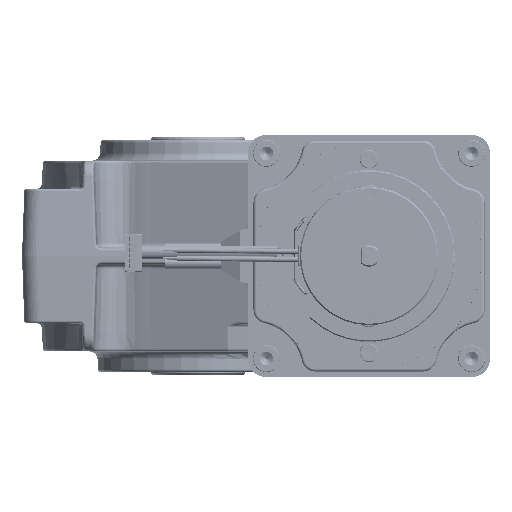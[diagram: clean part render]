
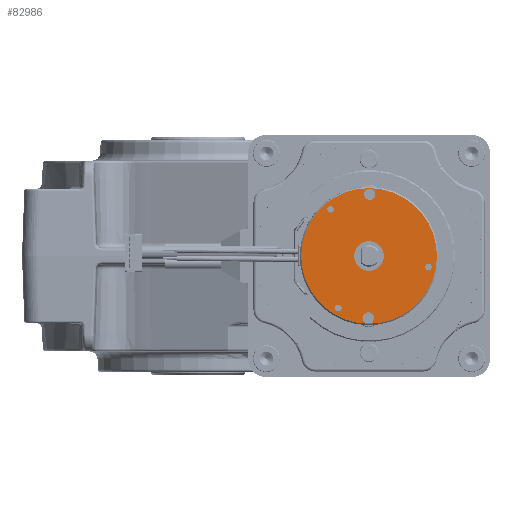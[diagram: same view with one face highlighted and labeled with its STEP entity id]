
A CAD part, left-side view. The second image highlights one B-rep face of the part: STEP entity #82986.
In plain terms, the highlighted planar face has unit normal (-1, 0, 0).
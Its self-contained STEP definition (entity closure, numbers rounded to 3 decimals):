
#1125 = AXIS2_PLACEMENT_3D ( 'NONE', #389057, #285704, #92017 ) ;
#7825 = AXIS2_PLACEMENT_3D ( 'NONE', #385766, #10157, #425029 ) ;
#8636 = CIRCLE ( 'NONE', #189085, 5.5 ) ;
#10157 = DIRECTION ( 'NONE',  ( 1., 0., 0. ) ) ;
#12057 = CARTESIAN_POINT ( 'NONE',  ( -331.459, -50.21, 33.282 ) ) ;
#12895 = CARTESIAN_POINT ( 'NONE',  ( -331.459, -16.029, 16.966 ) ) ;
#17750 = AXIS2_PLACEMENT_3D ( 'NONE', #117070, #414238, #193179 ) ;
#21925 = AXIS2_PLACEMENT_3D ( 'NONE', #27874, #175227, #401114 ) ;
#26523 = EDGE_CURVE ( 'NONE', #59712, #194516, #285252, .T. ) ;
#27874 = CARTESIAN_POINT ( 'NONE',  ( -331.459, -27.87, 14.403 ) ) ;
#42299 = DIRECTION ( 'NONE',  ( 0., -0.508, 0.861 ) ) ;
#44569 = ORIENTED_EDGE ( 'NONE', *, *, #374993, .T. ) ;
#45468 = EDGE_CURVE ( 'NONE', #362973, #291118, #56095, .T. ) ;
#49362 = DIRECTION ( 'NONE',  ( 0., -0.508, 0.861 ) ) ;
#49510 = EDGE_CURVE ( 'NONE', #291118, #362973, #452492, .T. ) ;
#51770 = DIRECTION ( 'NONE',  ( 1., 0., 0. ) ) ;
#56095 = CIRCLE ( 'NONE', #1125, 1.23 ) ;
#59712 = VERTEX_POINT ( 'NONE', #317748 ) ;
#82986 = ADVANCED_FACE ( 'NONE', ( #152763, #302496, #484417, #155154, #295218, #113451, #332121 ), #115894, .F. ) ;
#86222 = CARTESIAN_POINT ( 'NONE',  ( -331.459, -16.654, 18.025 ) ) ;
#86944 = VERTEX_POINT ( 'NONE', #277448 ) ;
#89856 = VERTEX_POINT ( 'NONE', #476757 ) ;
#91174 = AXIS2_PLACEMENT_3D ( 'NONE', #454734, #226334, #344177 ) ;
#92017 = DIRECTION ( 'NONE',  ( 0., -0.508, 0.861 ) ) ;
#94064 = AXIS2_PLACEMENT_3D ( 'NONE', #314850, #211604, #398255 ) ;
#103034 = CARTESIAN_POINT ( 'NONE',  ( -331.459, -28.091, 37.402 ) ) ;
#104779 = DIRECTION ( 'NONE',  ( 0., -0.508, 0.861 ) ) ;
#105380 = DIRECTION ( 'NONE',  ( -1., 0., 0. ) ) ;
#113149 = ORIENTED_EDGE ( 'NONE', *, *, #45468, .T. ) ;
#113451 = FACE_BOUND ( 'NONE', #348280, .T. ) ;
#115894 = PLANE ( 'NONE',  #164408 ) ;
#117070 = CARTESIAN_POINT ( 'NONE',  ( -331.459, -28.312, 60.401 ) ) ;
#122070 = EDGE_CURVE ( 'NONE', #453944, #362469, #219467, .T. ) ;
#122396 = AXIS2_PLACEMENT_3D ( 'NONE', #441140, #143950, #210355 ) ;
#122909 = AXIS2_PLACEMENT_3D ( 'NONE', #12057, #350845, #161827 ) ;
#125425 = CARTESIAN_POINT ( 'NONE',  ( -331.459, -28.091, 37.402 ) ) ;
#127788 = DIRECTION ( 'NONE',  ( 1., 0., 0. ) ) ;
#141306 = CIRCLE ( 'NONE', #94064, 1.23 ) ;
#143950 = DIRECTION ( 'NONE',  ( 1., 0., 0. ) ) ;
#149821 = ORIENTED_EDGE ( 'NONE', *, *, #392964, .T. ) ;
#149859 = EDGE_CURVE ( 'NONE', #362469, #453944, #141306, .T. ) ;
#150676 = ORIENTED_EDGE ( 'NONE', *, *, #415633, .T. ) ;
#151674 = CIRCLE ( 'NONE', #449689, 5.5 ) ;
#151983 = ORIENTED_EDGE ( 'NONE', *, *, #122070, .T. ) ;
#152763 = FACE_BOUND ( 'NONE', #395417, .T. ) ;
#154187 = EDGE_LOOP ( 'NONE', ( #207146, #469732 ) ) ;
#154590 = AXIS2_PLACEMENT_3D ( 'NONE', #328244, #478109, #104779 ) ;
#155154 = FACE_BOUND ( 'NONE', #193819, .T. ) ;
#155749 = CARTESIAN_POINT ( 'NONE',  ( -331.459, -29.379, 62.209 ) ) ;
#161827 = DIRECTION ( 'NONE',  ( 0., -0.508, 0.861 ) ) ;
#164408 = AXIS2_PLACEMENT_3D ( 'NONE', #482007, #300102, #42299 ) ;
#170070 = VERTEX_POINT ( 'NONE', #155749 ) ;
#174125 = AXIS2_PLACEMENT_3D ( 'NONE', #476802, #356471, #400591 ) ;
#175026 = CARTESIAN_POINT ( 'NONE',  ( -331.459, -40.925, 59.146 ) ) ;
#175227 = DIRECTION ( 'NONE',  ( 1., 0., 0. ) ) ;
#177441 = CARTESIAN_POINT ( 'NONE',  ( -331.459, -28.937, 16.211 ) ) ;
#189085 = AXIS2_PLACEMENT_3D ( 'NONE', #125425, #51770, #49362 ) ;
#191179 = EDGE_CURVE ( 'NONE', #86944, #245754, #401630, .T. ) ;
#193179 = DIRECTION ( 'NONE',  ( 0., -0.508, 0.861 ) ) ;
#193819 = EDGE_LOOP ( 'NONE', ( #261117, #113149 ) ) ;
#194516 = VERTEX_POINT ( 'NONE', #12895 ) ;
#196600 = CARTESIAN_POINT ( 'NONE',  ( -331.459, -27.244, 58.592 ) ) ;
#197348 = AXIS2_PLACEMENT_3D ( 'NONE', #103034, #105380, #402527 ) ;
#207146 = ORIENTED_EDGE ( 'NONE', *, *, #388188, .T. ) ;
#210355 = DIRECTION ( 'NONE',  ( 0., -0.508, 0.861 ) ) ;
#211604 = DIRECTION ( 'NONE',  ( 1., 0., 0. ) ) ;
#215518 = CARTESIAN_POINT ( 'NONE',  ( -331.459, -49.585, 32.223 ) ) ;
#215886 = EDGE_LOOP ( 'NONE', ( #151983, #246502 ) ) ;
#218326 = DIRECTION ( 'NONE',  ( 1., 0., 0. ) ) ;
#219467 = CIRCLE ( 'NONE', #7825, 1.23 ) ;
#226334 = DIRECTION ( 'NONE',  ( 1., 0., 0. ) ) ;
#238163 = VERTEX_POINT ( 'NONE', #196600 ) ;
#245754 = VERTEX_POINT ( 'NONE', #175026 ) ;
#246502 = ORIENTED_EDGE ( 'NONE', *, *, #149859, .T. ) ;
#252662 = DIRECTION ( 'NONE',  ( 0., -0.508, 0.861 ) ) ;
#261117 = ORIENTED_EDGE ( 'NONE', *, *, #49510, .T. ) ;
#273362 = EDGE_LOOP ( 'NONE', ( #328565, #481593 ) ) ;
#277448 = CARTESIAN_POINT ( 'NONE',  ( -331.459, -15.256, 15.657 ) ) ;
#284934 = AXIS2_PLACEMENT_3D ( 'NONE', #86222, #127788, #385701 ) ;
#285252 = CIRCLE ( 'NONE', #284934, 1.229 ) ;
#285704 = DIRECTION ( 'NONE',  ( 1., 0., 0. ) ) ;
#291118 = VERTEX_POINT ( 'NONE', #351469 ) ;
#295218 = FACE_BOUND ( 'NONE', #273362, .T. ) ;
#299911 = EDGE_LOOP ( 'NONE', ( #387271, #149821 ) ) ;
#300102 = DIRECTION ( 'NONE',  ( 1., 0., 0. ) ) ;
#302496 = FACE_BOUND ( 'NONE', #299911, .T. ) ;
#303577 = CIRCLE ( 'NONE', #154590, 1.229 ) ;
#310554 = CIRCLE ( 'NONE', #122396, 2.1 ) ;
#311748 = CIRCLE ( 'NONE', #21925, 2.1 ) ;
#313195 = CARTESIAN_POINT ( 'NONE',  ( -331.459, -14.419, 55.835 ) ) ;
#314850 = CARTESIAN_POINT ( 'NONE',  ( -331.459, -13.794, 54.776 ) ) ;
#317748 = CARTESIAN_POINT ( 'NONE',  ( -331.459, -17.279, 19.084 ) ) ;
#328244 = CARTESIAN_POINT ( 'NONE',  ( -331.459, -16.654, 18.025 ) ) ;
#328565 = ORIENTED_EDGE ( 'NONE', *, *, #26523, .T. ) ;
#332121 = FACE_OUTER_BOUND ( 'NONE', #154187, .T. ) ;
#338617 = CIRCLE ( 'NONE', #197348, 25.25 ) ;
#344177 = DIRECTION ( 'NONE',  ( 0., -0.508, 0.861 ) ) ;
#348253 = ORIENTED_EDGE ( 'NONE', *, *, #398955, .T. ) ;
#348280 = EDGE_LOOP ( 'NONE', ( #348253, #44569 ) ) ;
#350845 = DIRECTION ( 'NONE',  ( 1., 0., 0. ) ) ;
#351469 = CARTESIAN_POINT ( 'NONE',  ( -331.459, -50.835, 34.341 ) ) ;
#356471 = DIRECTION ( 'NONE',  ( -1., 0., 0. ) ) ;
#362469 = VERTEX_POINT ( 'NONE', #378493 ) ;
#362973 = VERTEX_POINT ( 'NONE', #215518 ) ;
#370724 = CIRCLE ( 'NONE', #17750, 2.1 ) ;
#373923 = ORIENTED_EDGE ( 'NONE', *, *, #475353, .T. ) ;
#374993 = EDGE_CURVE ( 'NONE', #465516, #89856, #8636, .T. ) ;
#378493 = CARTESIAN_POINT ( 'NONE',  ( -331.459, -13.169, 53.717 ) ) ;
#379087 = EDGE_CURVE ( 'NONE', #170070, #238163, #310554, .T. ) ;
#379819 = EDGE_CURVE ( 'NONE', #194516, #59712, #303577, .T. ) ;
#385701 = DIRECTION ( 'NONE',  ( 0., -0.508, 0.861 ) ) ;
#385766 = CARTESIAN_POINT ( 'NONE',  ( -331.459, -13.794, 54.776 ) ) ;
#387271 = ORIENTED_EDGE ( 'NONE', *, *, #379087, .T. ) ;
#388188 = EDGE_CURVE ( 'NONE', #245754, #86944, #338617, .T. ) ;
#389057 = CARTESIAN_POINT ( 'NONE',  ( -331.459, -50.21, 33.282 ) ) ;
#392964 = EDGE_CURVE ( 'NONE', #238163, #170070, #370724, .T. ) ;
#395417 = EDGE_LOOP ( 'NONE', ( #373923, #150676 ) ) ;
#398255 = DIRECTION ( 'NONE',  ( 0., -0.508, 0.861 ) ) ;
#398955 = EDGE_CURVE ( 'NONE', #89856, #465516, #151674, .T. ) ;
#400591 = DIRECTION ( 'NONE',  ( 0., -0.508, 0.861 ) ) ;
#401114 = DIRECTION ( 'NONE',  ( 0., -0.508, 0.861 ) ) ;
#401630 = CIRCLE ( 'NONE', #174125, 25.25 ) ;
#402527 = DIRECTION ( 'NONE',  ( 0., -0.508, 0.861 ) ) ;
#414238 = DIRECTION ( 'NONE',  ( 1., 0., 0. ) ) ;
#415633 = EDGE_CURVE ( 'NONE', #419464, #479719, #483398, .T. ) ;
#419464 = VERTEX_POINT ( 'NONE', #479554 ) ;
#425029 = DIRECTION ( 'NONE',  ( 0., -0.508, 0.861 ) ) ;
#433316 = CARTESIAN_POINT ( 'NONE',  ( -331.459, -25.295, 32.665 ) ) ;
#441140 = CARTESIAN_POINT ( 'NONE',  ( -331.459, -28.312, 60.401 ) ) ;
#449689 = AXIS2_PLACEMENT_3D ( 'NONE', #481155, #218326, #252662 ) ;
#452492 = CIRCLE ( 'NONE', #122909, 1.23 ) ;
#453944 = VERTEX_POINT ( 'NONE', #313195 ) ;
#454734 = CARTESIAN_POINT ( 'NONE',  ( -331.459, -27.87, 14.403 ) ) ;
#465516 = VERTEX_POINT ( 'NONE', #433316 ) ;
#469732 = ORIENTED_EDGE ( 'NONE', *, *, #191179, .T. ) ;
#475353 = EDGE_CURVE ( 'NONE', #479719, #419464, #311748, .T. ) ;
#476757 = CARTESIAN_POINT ( 'NONE',  ( -331.459, -30.886, 42.138 ) ) ;
#476802 = CARTESIAN_POINT ( 'NONE',  ( -331.459, -28.091, 37.402 ) ) ;
#478109 = DIRECTION ( 'NONE',  ( 1., 0., 0. ) ) ;
#479554 = CARTESIAN_POINT ( 'NONE',  ( -331.459, -26.802, 12.594 ) ) ;
#479719 = VERTEX_POINT ( 'NONE', #177441 ) ;
#481155 = CARTESIAN_POINT ( 'NONE',  ( -331.459, -28.091, 37.402 ) ) ;
#481593 = ORIENTED_EDGE ( 'NONE', *, *, #379819, .T. ) ;
#482007 = CARTESIAN_POINT ( 'NONE',  ( -331.459, -30.886, 42.138 ) ) ;
#483398 = CIRCLE ( 'NONE', #91174, 2.1 ) ;
#484417 = FACE_BOUND ( 'NONE', #215886, .T. ) ;
